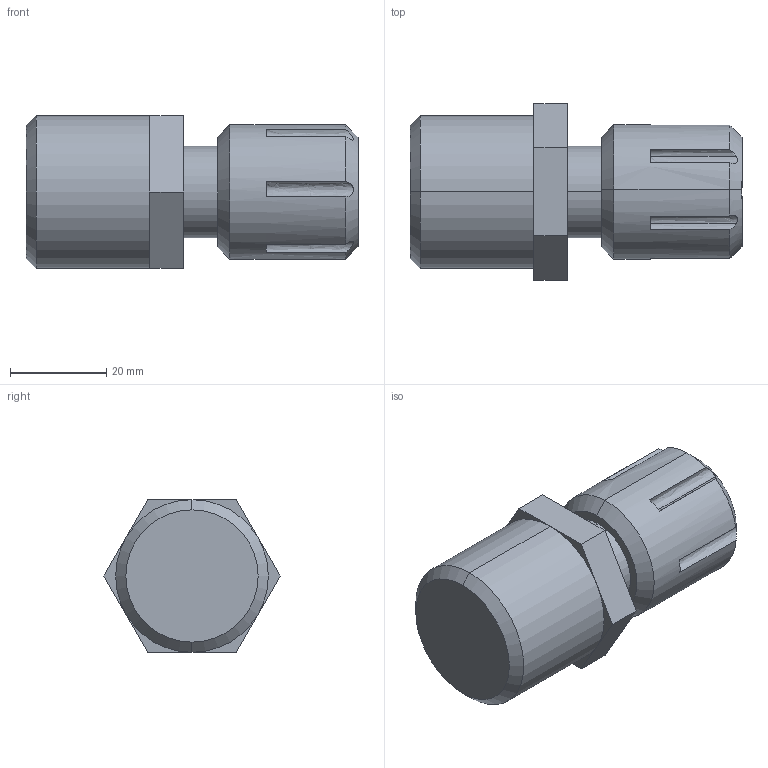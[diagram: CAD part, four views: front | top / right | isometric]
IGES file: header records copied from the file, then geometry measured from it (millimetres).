
Start section: SolidWorks IGES file using analytic representation for surfaces
Global section: file name: S:\Product Visuals\Defeatured Models and Parts Library\Parts Library IGES & STEP\Liquid Fittings\Front Mount liquid Fittings\Flaretek Compatible\60LPM\Fitting Flaretek Compatible 08.IGS; native system: SolidWorks 2012; preprocessor: SolidWorks 2012; author: rachel.dressel; date: 120928.132018; units: inch
Bounding box: 69.06 x 36.66 x 31.75 mm (x, y, z)
Volume: 44371.4 mm3; surface area: 8771.9 mm2
Topology: 1 solids, 1 shells, 45 faces, 106 edges, 66 vertices
Faces by surface type: plane 23, revolution 22
